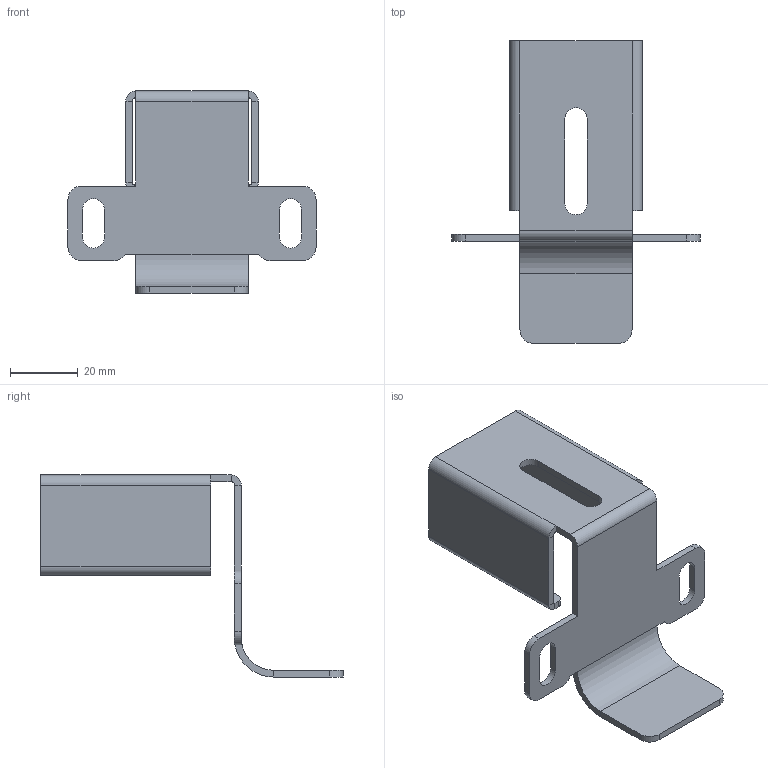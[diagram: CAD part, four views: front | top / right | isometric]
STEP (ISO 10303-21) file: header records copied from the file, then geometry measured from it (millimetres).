
FILE_DESCRIPTION (( 'STEP AP203' ), '1' );
FILE_NAME ('800.029.125.STEP', '2015-10-13T14:13:39', ( '' ), ( '' ), 'SwSTEP 2.0', 'SolidWorks 2012', '' );
FILE_SCHEMA (( 'CONFIG_CONTROL_DESIGN' ));
Length unit declared in the file: millimetre
Products named in the file (1): 800.029.125
Bounding box: 73 x 89 x 59.5 mm (x, y, z)
Volume: 16882.2 mm3; surface area: 18273.5 mm2
Topology: 1 solids, 1 shells, 90 faces, 216 edges, 128 vertices
Faces by surface type: plane 58, cylinder 32
Entity records: 2649 total; most frequent: DIRECTION 462, CARTESIAN_POINT 435, ORIENTED_EDGE 432, EDGE_CURVE 216, AXIS2_PLACEMENT_3D 155, VECTOR 152, LINE 152, VERTEX_POINT 128
